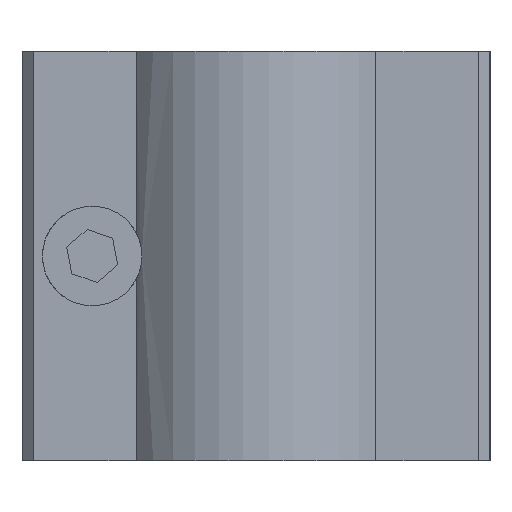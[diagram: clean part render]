
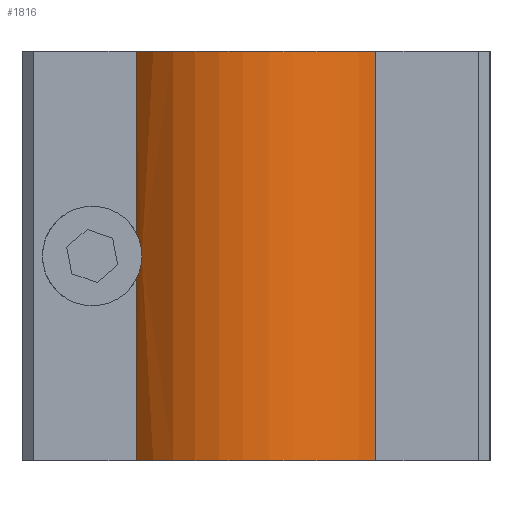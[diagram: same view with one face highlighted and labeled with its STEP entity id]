
A CAD part, front view. The second image highlights one B-rep face of the part: STEP entity #1816.
In plain terms, the highlighted cylindrical face has radius 13 mm (diameter 26 mm), a partial arc.
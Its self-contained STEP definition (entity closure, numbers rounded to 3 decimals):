
#679=CARTESIAN_POINT('',(-10.956,-3.802,12.506));
#680=VERTEX_POINT('',#679);
#688=CARTESIAN_POINT('',(-10.459,-4.4,14.5));
#689=VERTEX_POINT('',#688);
#690=CARTESIAN_POINT('',(-10.459,-4.4,14.5));
#691=CARTESIAN_POINT('',(-10.459,-4.4,14.094));
#692=CARTESIAN_POINT('',(-10.522,-4.33,13.665));
#693=CARTESIAN_POINT('',(-10.723,-4.092,12.995));
#694=CARTESIAN_POINT('',(-10.834,-3.957,12.734));
#695=CARTESIAN_POINT('',(-10.956,-3.802,12.506));
#696=B_SPLINE_CURVE_WITH_KNOTS('',3,(#690,#691,#692,#693,#694,#695),.UNSPECIFIED.,.F.,.U.,(4,2,4),(1.306,1.428,1.515),.UNSPECIFIED.);
#697=EDGE_CURVE('',#689,#680,#696,.T.);
#931=CARTESIAN_POINT('',(-10.956,-3.802,16.494));
#932=VERTEX_POINT('',#931);
#933=CARTESIAN_POINT('',(-10.956,-3.802,16.494));
#934=CARTESIAN_POINT('',(-10.834,-3.957,16.266));
#935=CARTESIAN_POINT('',(-10.723,-4.092,16.005));
#936=CARTESIAN_POINT('',(-10.522,-4.33,15.335));
#937=CARTESIAN_POINT('',(-10.459,-4.4,14.906));
#938=CARTESIAN_POINT('',(-10.459,-4.4,14.5));
#939=B_SPLINE_CURVE_WITH_KNOTS('',3,(#933,#934,#935,#936,#937,#938),.UNSPECIFIED.,.F.,.U.,(4,2,4),(1.096,1.184,1.306),.UNSPECIFIED.);
#940=EDGE_CURVE('',#932,#689,#939,.T.);
#977=CARTESIAN_POINT('',(-10.956,-3.802,32.0));
#978=VERTEX_POINT('',#977);
#979=CARTESIAN_POINT('',(-10.956,-3.802,32.0));
#980=DIRECTION('',(0.0,0.0,-1.0));
#981=VECTOR('',#980,15.506);
#982=LINE('',#979,#981);
#983=EDGE_CURVE('',#978,#932,#982,.T.);
#1001=CARTESIAN_POINT('',(-10.956,-3.802,-3.));
#1002=VERTEX_POINT('',#1001);
#1009=CARTESIAN_POINT('',(-10.956,-3.802,12.506));
#1010=DIRECTION('',(0.0,0.0,-1.0));
#1011=VECTOR('',#1010,15.506);
#1012=LINE('',#1009,#1011);
#1013=EDGE_CURVE('',#680,#1002,#1012,.T.);
#1167=CARTESIAN_POINT('',(9.538,-3.802,32.0));
#1168=VERTEX_POINT('',#1167);
#1169=CARTESIAN_POINT('',(-0.709,4.198,32.0));
#1170=DIRECTION('',(0.0,0.0,-1.0));
#1171=DIRECTION('',(0.788,0.615,0.0));
#1172=AXIS2_PLACEMENT_3D('',#1169,#1170,#1171);
#1173=CIRCLE('',#1172,13.);
#1174=EDGE_CURVE('',#1168,#978,#1173,.T.);
#1720=CARTESIAN_POINT('',(9.538,-3.802,-3.));
#1721=VERTEX_POINT('',#1720);
#1728=CARTESIAN_POINT('',(-0.709,4.198,-3.));
#1729=DIRECTION('',(0.0,0.0,1.0));
#1730=DIRECTION('',(0.788,0.615,0.0));
#1731=AXIS2_PLACEMENT_3D('',#1728,#1729,#1730);
#1732=CIRCLE('',#1731,13.);
#1733=EDGE_CURVE('',#1002,#1721,#1732,.T.);
#1791=CARTESIAN_POINT('',(9.538,-3.802,32.0));
#1792=DIRECTION('',(0.0,0.0,-1.0));
#1793=VECTOR('',#1792,35.0);
#1794=LINE('',#1791,#1793);
#1795=EDGE_CURVE('',#1168,#1721,#1794,.T.);
#1802=CARTESIAN_POINT('',(-0.709,4.198,14.5));
#1803=DIRECTION('',(0.0,0.0,1.0));
#1804=DIRECTION('',(0.788,0.615,0.0));
#1805=AXIS2_PLACEMENT_3D('',#1802,#1803,#1804);
#1806=CYLINDRICAL_SURFACE('',#1805,13.);
#1807=ORIENTED_EDGE('',*,*,#940,.T.);
#1808=ORIENTED_EDGE('',*,*,#697,.T.);
#1809=ORIENTED_EDGE('',*,*,#1013,.T.);
#1810=ORIENTED_EDGE('',*,*,#1733,.T.);
#1811=ORIENTED_EDGE('',*,*,#1795,.F.);
#1812=ORIENTED_EDGE('',*,*,#1174,.T.);
#1813=ORIENTED_EDGE('',*,*,#983,.T.);
#1814=EDGE_LOOP('',(#1807,#1808,#1809,#1810,#1811,#1812,#1813));
#1815=FACE_OUTER_BOUND('',#1814,.T.);
#1816=ADVANCED_FACE('',(#1815),#1806,.T.);
